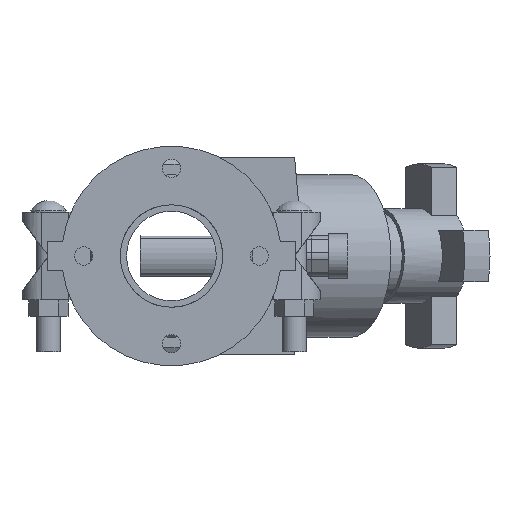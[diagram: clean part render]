
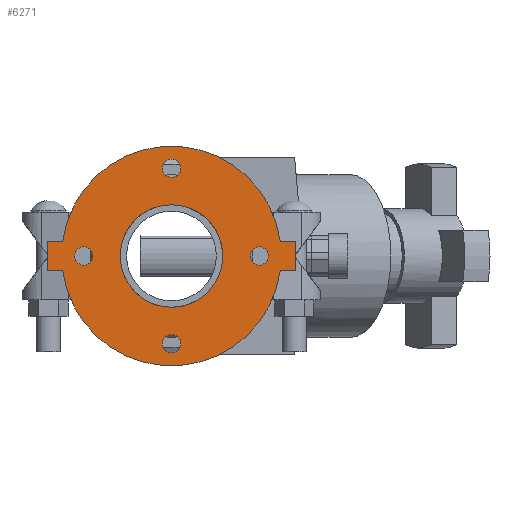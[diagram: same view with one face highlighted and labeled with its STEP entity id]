
A CAD part, front view. The second image highlights one B-rep face of the part: STEP entity #6271.
In plain terms, the highlighted planar face has unit normal (0, -1, 0) as drawn and (0, 0, 1) by its records, which use the part's own axes.
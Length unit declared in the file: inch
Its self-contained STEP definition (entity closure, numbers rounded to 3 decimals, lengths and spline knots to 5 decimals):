
#174=FACE_BOUND('',#792,.T.);
#175=FACE_BOUND('',#793,.T.);
#176=FACE_BOUND('',#794,.T.);
#177=FACE_BOUND('',#795,.T.);
#178=FACE_BOUND('',#796,.T.);
#241=PLANE('',#6825);
#446=FACE_OUTER_BOUND('',#791,.T.);
#791=EDGE_LOOP('',(#4058,#4059,#4060,#4061,#4062,#4063,#4064,#4065));
#792=EDGE_LOOP('',(#4066));
#793=EDGE_LOOP('',(#4067));
#794=EDGE_LOOP('',(#4068));
#795=EDGE_LOOP('',(#4069));
#796=EDGE_LOOP('',(#4070,#4071));
#1193=LINE('',#9578,#1663);
#1194=LINE('',#9581,#1664);
#1197=LINE('',#9586,#1667);
#1198=LINE('',#9589,#1668);
#1200=LINE('',#9592,#1670);
#1201=LINE('',#9594,#1671);
#1663=VECTOR('',#7612,0.3937);
#1664=VECTOR('',#7615,0.3937);
#1667=VECTOR('',#7620,0.3937);
#1668=VECTOR('',#7623,0.3937);
#1670=VECTOR('',#7627,0.3937);
#1671=VECTOR('',#7630,0.3937);
#2117=CIRCLE('',#6796,0.3125);
#2119=CIRCLE('',#6799,0.3125);
#2121=CIRCLE('',#6802,0.3125);
#2123=CIRCLE('',#6805,0.3125);
#2129=CIRCLE('',#6813,3.75);
#2130=CIRCLE('',#6815,1.75);
#2131=CIRCLE('',#6816,1.75);
#2132=CIRCLE('',#6818,3.75);
#2479=VERTEX_POINT('',#9513);
#2481=VERTEX_POINT('',#9519);
#2483=VERTEX_POINT('',#9525);
#2485=VERTEX_POINT('',#9531);
#2497=VERTEX_POINT('',#9558);
#2498=VERTEX_POINT('',#9560);
#2499=VERTEX_POINT('',#9564);
#2500=VERTEX_POINT('',#9566);
#2501=VERTEX_POINT('',#9570);
#2502=VERTEX_POINT('',#9572);
#2503=VERTEX_POINT('',#9576);
#2504=VERTEX_POINT('',#9580);
#2505=VERTEX_POINT('',#9584);
#2506=VERTEX_POINT('',#9588);
#3089=EDGE_CURVE('',#2479,#2479,#2117,.T.);
#3092=EDGE_CURVE('',#2481,#2481,#2119,.T.);
#3095=EDGE_CURVE('',#2483,#2483,#2121,.T.);
#3098=EDGE_CURVE('',#2485,#2485,#2123,.T.);
#3113=EDGE_CURVE('',#2497,#2498,#2129,.T.);
#3115=EDGE_CURVE('',#2500,#2499,#2130,.T.);
#3116=EDGE_CURVE('',#2499,#2500,#2131,.T.);
#3118=EDGE_CURVE('',#2502,#2501,#2132,.T.);
#3121=EDGE_CURVE('',#2498,#2503,#1193,.T.);
#3122=EDGE_CURVE('',#2504,#2502,#1194,.T.);
#3125=EDGE_CURVE('',#2501,#2505,#1197,.T.);
#3126=EDGE_CURVE('',#2506,#2497,#1198,.T.);
#3128=EDGE_CURVE('',#2505,#2506,#1200,.T.);
#3129=EDGE_CURVE('',#2503,#2504,#1201,.T.);
#4058=ORIENTED_EDGE('',*,*,#3125,.T.);
#4059=ORIENTED_EDGE('',*,*,#3128,.T.);
#4060=ORIENTED_EDGE('',*,*,#3126,.T.);
#4061=ORIENTED_EDGE('',*,*,#3113,.T.);
#4062=ORIENTED_EDGE('',*,*,#3121,.T.);
#4063=ORIENTED_EDGE('',*,*,#3129,.T.);
#4064=ORIENTED_EDGE('',*,*,#3122,.T.);
#4065=ORIENTED_EDGE('',*,*,#3118,.T.);
#4066=ORIENTED_EDGE('',*,*,#3089,.T.);
#4067=ORIENTED_EDGE('',*,*,#3092,.T.);
#4068=ORIENTED_EDGE('',*,*,#3095,.T.);
#4069=ORIENTED_EDGE('',*,*,#3098,.T.);
#4070=ORIENTED_EDGE('',*,*,#3115,.T.);
#4071=ORIENTED_EDGE('',*,*,#3116,.T.);
#6271=ADVANCED_FACE('',(#446,#174,#175,#176,#177,#178),#241,.T.);
#6796=AXIS2_PLACEMENT_3D('',#9514,#7548,#7549);
#6799=AXIS2_PLACEMENT_3D('',#9520,#7555,#7556);
#6802=AXIS2_PLACEMENT_3D('',#9526,#7562,#7563);
#6805=AXIS2_PLACEMENT_3D('',#9532,#7569,#7570);
#6813=AXIS2_PLACEMENT_3D('',#9562,#7594,#7595);
#6815=AXIS2_PLACEMENT_3D('',#9567,#7599,#7600);
#6816=AXIS2_PLACEMENT_3D('',#9568,#7601,#7602);
#6818=AXIS2_PLACEMENT_3D('',#9573,#7606,#7607);
#6825=AXIS2_PLACEMENT_3D('',#9595,#7631,#7632);
#7548=DIRECTION('center_axis',(0.,0.,-1.));
#7549=DIRECTION('ref_axis',(0.,1.,0.));
#7555=DIRECTION('center_axis',(0.,0.,-1.));
#7556=DIRECTION('ref_axis',(1.,0.,0.));
#7562=DIRECTION('center_axis',(0.,0.,-1.));
#7563=DIRECTION('ref_axis',(0.,-1.,0.));
#7569=DIRECTION('center_axis',(0.,0.,-1.));
#7570=DIRECTION('ref_axis',(-1.,0.,0.));
#7594=DIRECTION('center_axis',(0.,0.,1.));
#7595=DIRECTION('ref_axis',(-1.,0.,0.));
#7599=DIRECTION('center_axis',(0.,0.,-1.));
#7600=DIRECTION('ref_axis',(-1.,0.,0.));
#7601=DIRECTION('center_axis',(0.,0.,-1.));
#7602=DIRECTION('ref_axis',(-1.,0.,0.));
#7606=DIRECTION('center_axis',(0.,0.,1.));
#7607=DIRECTION('ref_axis',(-1.,0.,0.));
#7612=DIRECTION('',(0.,1.,0.));
#7615=DIRECTION('',(0.,-1.,0.));
#7620=DIRECTION('',(0.,-1.,0.));
#7623=DIRECTION('',(0.,1.,0.));
#7627=DIRECTION('',(1.,0.,0.));
#7630=DIRECTION('',(-1.,0.,0.));
#7631=DIRECTION('center_axis',(0.,0.,1.));
#7632=DIRECTION('ref_axis',(1.,0.,0.));
#9513=CARTESIAN_POINT('',(0.,2.6875,0.5));
#9514=CARTESIAN_POINT('Origin',(0.,3.,0.5));
#9519=CARTESIAN_POINT('',(2.6875,0.,0.5));
#9520=CARTESIAN_POINT('Origin',(3.,0.,0.5));
#9525=CARTESIAN_POINT('',(0.,-2.6875,0.5));
#9526=CARTESIAN_POINT('Origin',(0.,-3.,0.5));
#9531=CARTESIAN_POINT('',(-2.6875,0.,0.5));
#9532=CARTESIAN_POINT('Origin',(-3.,0.,0.5));
#9558=CARTESIAN_POINT('',(0.5,-3.71652,0.5));
#9560=CARTESIAN_POINT('',(0.5,3.71652,0.5));
#9562=CARTESIAN_POINT('Origin',(0.,0.,0.5));
#9564=CARTESIAN_POINT('',(1.75,0.,0.5));
#9566=CARTESIAN_POINT('',(0.5,1.67705,0.5));
#9567=CARTESIAN_POINT('Origin',(0.,0.,0.5));
#9568=CARTESIAN_POINT('Origin',(0.,0.,0.5));
#9570=CARTESIAN_POINT('',(-0.5,-3.71652,0.5));
#9572=CARTESIAN_POINT('',(-0.5,3.71652,0.5));
#9573=CARTESIAN_POINT('Origin',(0.,0.,0.5));
#9576=CARTESIAN_POINT('',(0.5,4.25,0.5));
#9578=CARTESIAN_POINT('',(0.5,4.25,0.5));
#9580=CARTESIAN_POINT('',(-0.5,4.25,0.5));
#9581=CARTESIAN_POINT('',(-0.5,-4.25,0.5));
#9584=CARTESIAN_POINT('',(-0.5,-4.25,0.5));
#9586=CARTESIAN_POINT('',(-0.5,-4.25,0.5));
#9588=CARTESIAN_POINT('',(0.5,-4.25,0.5));
#9589=CARTESIAN_POINT('',(0.5,4.25,0.5));
#9592=CARTESIAN_POINT('',(0.5,-4.25,0.5));
#9594=CARTESIAN_POINT('',(-0.5,4.25,0.5));
#9595=CARTESIAN_POINT('Origin',(0.,0.,0.5));
